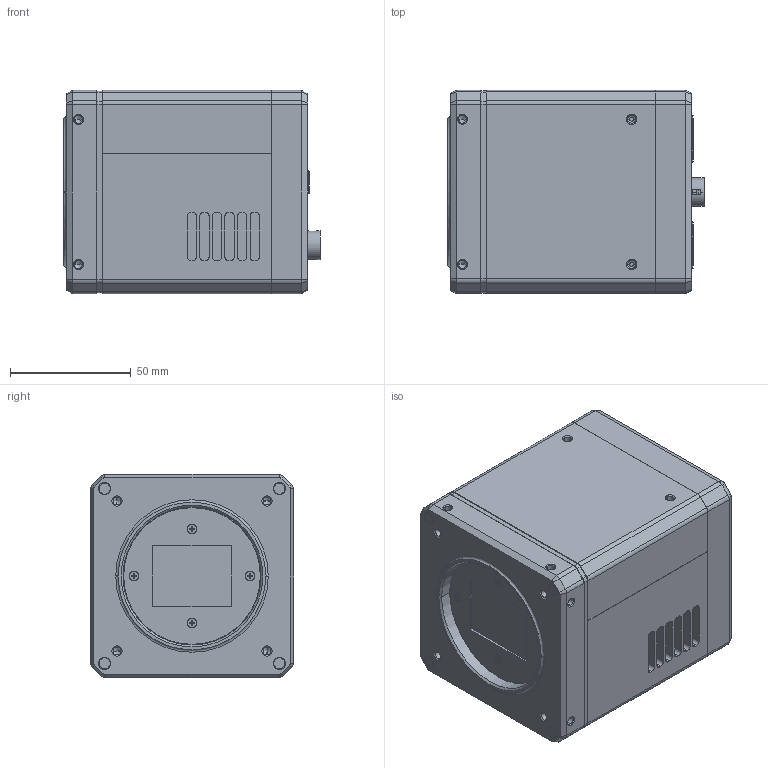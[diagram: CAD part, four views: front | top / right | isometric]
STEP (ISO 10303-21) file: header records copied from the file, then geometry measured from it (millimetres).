
FILE_DESCRIPTION((''),'2;1');
FILE_NAME('00-X8-Z_ASM_ASM111111','2023-04-04T20:55:10',('wangyijun6'),(''),'CREO PARAMETRIC BY PTC INC, 2017260','CREO PARAMETRIC BY PTC INC, 2017260','');
FILE_SCHEMA(('CONFIG_CONTROL_DESIGN'));
Products named in the file (1): 00-X8-Z_ASM_ASM111111
Bounding box: 105.85 x 84 x 84 mm (x, y, z)
Volume: 613231.4 mm3; surface area: 119949.1 mm2
Topology: 2 solids, 58 shells, 2811 faces, 7777 edges, 5036 vertices
Faces by surface type: plane 1293, cylinder 981, cone 329, bspline 110, torus 90, revolution 8
Entity records: 95467 total; most frequent: CARTESIAN_POINT 22752, DIRECTION 15336, ORIENTED_EDGE 15286, EDGE_CURVE 7737, AXIS2_PLACEMENT_3D 5561, VERTEX_POINT 5036, VECTOR 4206, LINE 4206
